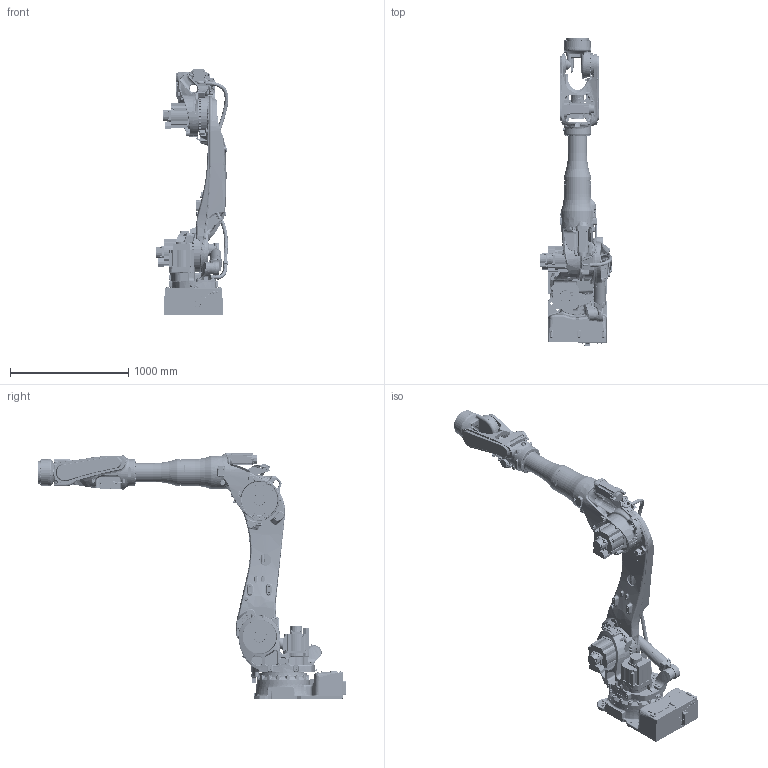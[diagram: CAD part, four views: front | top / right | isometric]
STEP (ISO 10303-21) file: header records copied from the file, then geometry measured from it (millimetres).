
FILE_DESCRIPTION(('CATIA V5 STEP Exchange'),'2;1');
FILE_NAME('D:\モデリング\☆☆☆STEP\BXP\BXP13X-A011_210118\RARAS_210301\STEP\BXP135X-A011 for BXP135X-A001\BXP135X-A001.stp','2021-03-01T00:36:31+00:00',('none'),('none'),'CATIA Version 5-6 Release 2016 SP6 HF14','CATIA V5 STEP AP203','none');
FILE_SCHEMA(('CONFIG_CONTROL_DESIGN'));
Products named in the file (1): BXP135X-A001
Assembly tree (9 placements, depth 2):
  BXP135X-A001
    #57
    #54723
    #158701
    #269694
    #346291
    #447985
    #473165
    #476546
    #489334
Bounding box: 615.31 x 2607.3 x 2087.41 mm (x, y, z)
Volume: 241442271.5 mm3; surface area: 12335431 mm2
Topology: 33 solids, 39 shells, 11097 faces, 27730 edges, 16906 vertices
Faces by surface type: cylinder 3309, plane 3283, bspline 2695, cone 894, torus 473, extrusion 191, sphere 164, revolution 88
Entity records: 506855 total; most frequent: CARTESIAN_POINT 295361, ORIENTED_EDGE 54250, DIRECTION 26908, EDGE_CURVE 24682, VERTEX_POINT 15421, AXIS2_PLACEMENT_3D 12666, EDGE_LOOP 12093, ADVANCED_FACE 11097
